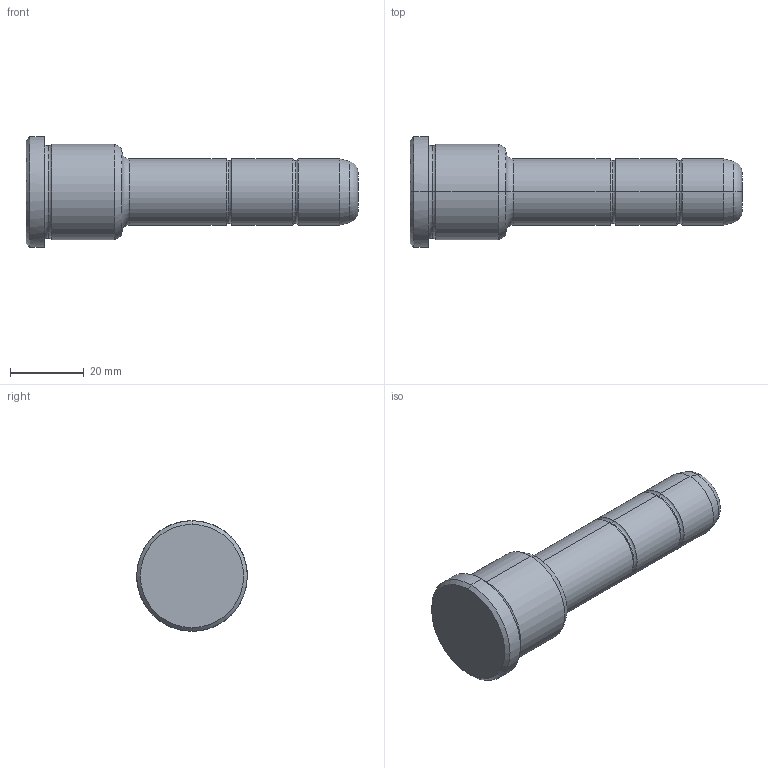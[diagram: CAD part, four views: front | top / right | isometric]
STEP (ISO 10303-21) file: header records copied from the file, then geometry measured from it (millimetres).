
FILE_DESCRIPTION(('CATIA V5 STEP Exchange'),'2;1');
FILE_NAME('C:\Users\Utente\Desktop\IO LAVORO\3D X SITO CF\X SITO\PLASTICA\351\351-18X26X90.stp','2021-08-19T12:47:28+00:00',('none'),('none'),'CATIA Version 5 Release 20 GA (IN-10)','CATIA V5 STEP AP203','none');
FILE_SCHEMA(('CONFIG_CONTROL_DESIGN'));
Length unit declared in the file: millimetre
Products named in the file (1): 351-18X26X90
Bounding box: 90 x 30 x 30 mm (x, y, z)
Volume: 30537.6 mm3; surface area: 6989 mm2
Topology: 1 solids, 1 shells, 36 faces, 102 edges, 70 vertices
Faces by surface type: torus 16, cylinder 10, cone 6, plane 4
Entity records: 1292 total; most frequent: CARTESIAN_POINT 321, ORIENTED_EDGE 204, DIRECTION 166, AXIS2_PLACEMENT_3D 115, EDGE_CURVE 102, CIRCLE 78, VERTEX_POINT 70, EDGE_LOOP 38
